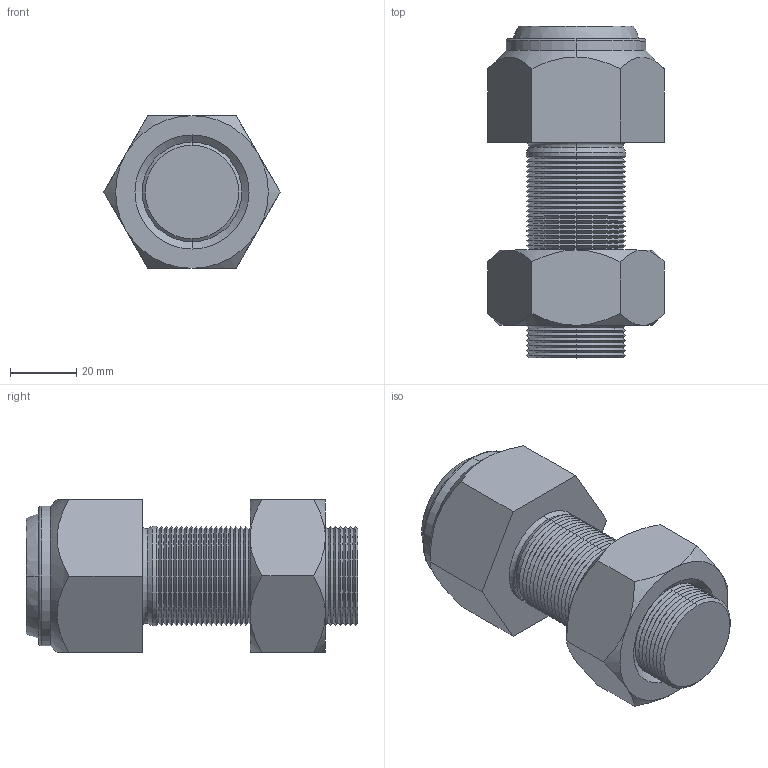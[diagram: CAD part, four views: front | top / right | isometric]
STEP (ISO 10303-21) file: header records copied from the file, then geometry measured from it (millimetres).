
FILE_DESCRIPTION (( 'STEP AP203' ), '1' );
FILE_NAME ('34120.W0046.step', '2017-03-27T09:20:44', ( 'User' ), ( '' ), 'SwSTEP 2.0', 'SolidWorks 2009', '' );
FILE_SCHEMA (( 'CONFIG_CONTROL_DESIGN' ));
Length unit declared in the file: millimetre
Products named in the file (4): 34120.W0046; Part1_34120.W0046; Part2_34120.W0046; Part3_34120.W0046
Assembly tree (3 placements, depth 2):
  34120.W0046
    Part2_34120.W0046
    Part3_34120.W0046
    Part1_34120.W0046
Bounding box: 53.12 x 100 x 46 mm (x, y, z)
Volume: 123709.5 mm3; surface area: 31374.1 mm2
Topology: 3 solids, 3 shells, 222 faces, 464 edges, 246 vertices
Faces by surface type: cone 182, plane 20, cylinder 8, torus 8, sphere 4
Entity records: 6334 total; most frequent: CARTESIAN_POINT 1222, DIRECTION 1104, ORIENTED_EDGE 908, EDGE_CURVE 454, AXIS2_PLACEMENT_3D 454, VERTEX_POINT 240, EDGE_LOOP 226, CIRCLE 226
